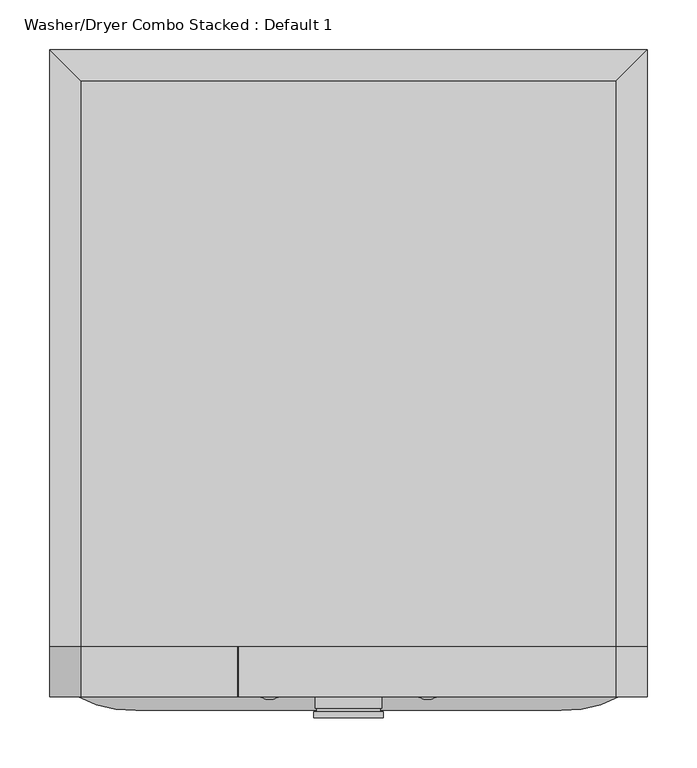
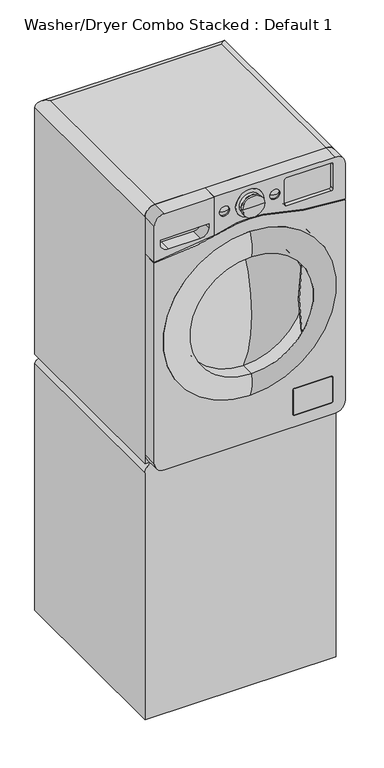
"""IFC4 building model written with IfcOpenShell, lengths in millimetres: proxy geometry, Washer/Dryer Combo Stacked : Default 1."""

from ifc_helpers import new_model, si_unit, point, frame, frame_2d, origin, place, context, project, spatial, polyline, circle_curve, ellipse_curve, trimmed, segment, composite_curve, outline, extrude, source, transform, mapped, element, save
from ifc_brep_helpers import plane_surface, cylinder_surface, revolved_surface, advanced_brep


def washer_dryer_combo_stacked_default_1_eb8726c9(model_context):
    return source(origin(), model_context, "Body", "SolidModel", [
        advanced_brep(
        [(-268.25, -599.2, 1700.0), (268.25, -599.2, 1700.0), (268.25, -31.75, 1700.0), (-268.25, -31.75, 1700.0), (300.0, 0.0, 850.0), (300.0, -599.2, 850.0), (-300.0, -599.2, 850.0), (-300.0, 0.0, 850.0), (-300.0, 0.0, 1668.25), (300.0, 0.0, 1668.25), (-300.0, -599.2, 1668.25), (300.0, -599.2, 1668.25)],
        [
            (0, 1),
            (1, 2),
            (2, 3),
            (3, 0),
            (4, 5),
            (5, 6),
            (6, 7),
            (7, 4),
            (7, 8),
            (8, 9),
            (9, 4),
            (6, 10),
            (10, 8),
            (5, 11),
            (11, 1, circle_curve(frame((268.25, -599.2, 1668.25), z_axis=(0.0, -1.0, 0.0), x_axis=(-1.0, 0.0, 0.0)), 31.75)),
            (0, 10, circle_curve(frame((-268.25, -599.2, 1668.25), z_axis=(0.0, -1.0, 0.0), x_axis=(1.0, 0.0, 0.0)), 31.75)),
            (9, 11),
            (9, 2, ellipse_curve(frame((268.25, -31.75, 1668.25), z_axis=(0.7071067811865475, -0.7071067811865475, 0.0), x_axis=(0.7071067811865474, 0.7071067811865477, 0.0)), 44.9012806, 31.75)),
            (8, 3, ellipse_curve(frame((-268.25, -31.75, 1668.25), z_axis=(0.7071067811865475, 0.7071067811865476, 0.0), x_axis=(-0.7071067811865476, 0.7071067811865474, 0.0)), 44.9012806, 31.75)),
        ],
        [
            plane_surface(frame((-300.0, 0.0, 1700.0), z_axis=(0.0, 0.0, 1.0), x_axis=(-1.0, 0.0, 0.0))),
            plane_surface(frame((-300.0, 0.0, 850.0), z_axis=(0.0, 0.0, -1.0), x_axis=(1.0, 0.0, 0.0))),
            plane_surface(frame((300.0, 0.0, 1700.0), z_axis=(0.0, 1.0, 0.0), x_axis=(0.0, 0.0, -1.0))),
            plane_surface(frame((-300.0, 0.0, 1700.0), z_axis=(-1.0, 0.0, 0.0), x_axis=(0.0, 0.0, -1.0))),
            plane_surface(frame((-300.0, -599.2, 1700.0), z_axis=(0.0, -1.0, 0.0), x_axis=(0.0, 0.0, -1.0))),
            plane_surface(frame((300.0, -599.2, 1700.0), z_axis=(1.0, 0.0, 0.0), x_axis=(0.0, 0.0, -1.0))),
            cylinder_surface(frame((268.25, -599.2, 1668.25), z_axis=(0.0, 1.0, 0.0), x_axis=(-1.0, 0.0, 0.0)), 31.75),
            cylinder_surface(frame((300.0, -31.75, 1668.25), z_axis=(-1.0, 0.0, 0.0), x_axis=(0.0, -1.0, 0.0)), 31.75),
            cylinder_surface(frame((-268.25, 0.0, 1668.25), z_axis=(0.0, -1.0, 0.0), x_axis=(1.0, 0.0, 0.0)), 31.75),
        ],
        [
            (0, [[1, 2, 3, 4]]),
            (1, [[5, 6, 7, 8]]),
            (2, [[-8, 9, 10, 11]]),
            (3, [[-7, 12, 13, -9]]),
            (4, [[-6, 14, 15, -1, 16, -12]]),
            (5, [[-5, -11, 17, -14]]),
            (6, [[18, -2, -15, -17]]),
            (7, [[-18, -10, 19, -3]]),
            (8, [[-19, -13, -16, -4]]),
        ],
    ),
        advanced_brep(
        [(268.25, -599.2, 1700.0), (300.0, -599.2, 1668.25), (300.0, -599.2, 1549.6273423), (41.197628, -599.2, 1590.1937849), (-41.197628, -599.2, 1590.1937849), (-110.0640352, -599.2, 1572.9758922), (-110.0640352, -599.2, 1700.0), (-63.5, -599.2, 1642.2071157), (-95.25, -599.2, 1642.2071157), (95.25, -599.2, 1642.2071157), (63.5, -599.2, 1642.2071157), (-44.45, -599.2, 1642.2071157), (44.45, -599.2, 1642.2071157), (-41.197628, -650.0, 1590.1937849), (41.197628, -650.0, 1590.1937849), (300.0, -650.0, 1549.6273423), (300.0, -650.0, 1668.25), (268.25, -650.0, 1700.0), (-110.0640352, -650.0, 1700.0), (-110.0640352, -650.0, 1572.9758922), (-63.5, -650.0, 1642.2071157), (-95.25, -650.0, 1642.2071157), (95.25, -650.0, 1642.2071157), (63.5, -650.0, 1642.2071157), (255.55, -650.0, 1592.05), (115.85, -650.0, 1592.05), (109.5, -650.0, 1598.4), (109.5, -650.0, 1677.775), (115.85, -650.0, 1684.125), (255.55, -650.0, 1684.125), (261.9, -650.0, 1677.775), (261.9, -650.0, 1598.4), (44.45, -650.0, 1642.2071157), (-44.45, -650.0, 1642.2071157), (255.55, -637.3, 1592.05), (261.9, -637.3, 1598.4), (261.9, -637.3, 1677.775), (255.55, -637.3, 1684.125), (115.85, -637.3, 1684.125), (109.5, -637.3, 1677.775), (109.5, -637.3, 1598.4), (115.85, -637.3, 1592.05)],
        [
            (0, 1, circle_curve(frame((268.25, -599.2, 1668.25), z_axis=(0.0, 1.0, 0.0), x_axis=(-1.0, 0.0, 0.0)), 31.75)),
            (1, 2),
            (2, 3, circle_curve(frame((335.100978, -599.2, 2619.3876052), z_axis=(0.0, 1.0, 0.0), x_axis=(-1.0, 0.0, 0.0)), 1070.3359747)),
            (3, 4, circle_curve(frame((0.0, -599.2, 1275.0), z_axis=(0.0, -1.0, 0.0), x_axis=(-1.0, 0.0, 0.0)), 317.8747656)),
            (4, 5, circle_curve(frame((-335.100978, -599.2, 2619.3876052), z_axis=(0.0, 1.0, 0.0), x_axis=(-1.0, 0.0, 0.0)), 1070.3359747)),
            (5, 6),
            (6, 0),
            (7, 8, circle_curve(frame((-79.375, -599.2, 1642.2071157), z_axis=(0.0, -1.0, 0.0), x_axis=(-1.0, 0.0, 0.0)), 15.875)),
            (8, 7, circle_curve(frame((-79.375, -599.2, 1642.2071157), z_axis=(0.0, -1.0, 0.0), x_axis=(-1.0, 0.0, 0.0)), 15.875)),
            (9, 10, circle_curve(frame((79.375, -599.2, 1642.2071157), z_axis=(0.0, -1.0, 0.0), x_axis=(-1.0, 0.0, 0.0)), 15.875)),
            (10, 9, circle_curve(frame((79.375, -599.2, 1642.2071157), z_axis=(0.0, -1.0, 0.0), x_axis=(-1.0, 0.0, 0.0)), 15.875)),
            (11, 12, circle_curve(frame((0.0, -599.2, 1642.2071157), z_axis=(0.0, -1.0, 0.0), x_axis=(-1.0, 0.0, 0.0)), 44.45)),
            (12, 11, circle_curve(frame((0.0, -599.2, 1642.2071157), z_axis=(0.0, -1.0, 0.0), x_axis=(-1.0, 0.0, 0.0)), 44.45)),
            (13, 14, circle_curve(frame((0.0, -650.0, 1275.0), z_axis=(0.0, 1.0, 0.0), x_axis=(-1.0, 0.0, 0.0)), 317.8747656)),
            (14, 15, circle_curve(frame((335.100978, -650.0, 2619.3876052), z_axis=(0.0, -1.0, 0.0), x_axis=(-1.0, 0.0, 0.0)), 1070.3359747)),
            (15, 16),
            (16, 17, circle_curve(frame((268.25, -650.0, 1668.25), z_axis=(0.0, -1.0, 0.0), x_axis=(-1.0, 0.0, 0.0)), 31.75)),
            (17, 18),
            (18, 19),
            (19, 13, circle_curve(frame((-335.100978, -650.0, 2619.3876052), z_axis=(0.0, -1.0, 0.0), x_axis=(-1.0, 0.0, 0.0)), 1070.3359747)),
            (20, 21, circle_curve(frame((-79.375, -650.0, 1642.2071157), z_axis=(0.0, 1.0, 0.0), x_axis=(-1.0, 0.0, 0.0)), 15.875)),
            (21, 20, circle_curve(frame((-79.375, -650.0, 1642.2071157), z_axis=(0.0, 1.0, 0.0), x_axis=(-1.0, 0.0, 0.0)), 15.875)),
            (22, 23, circle_curve(frame((79.375, -650.0, 1642.2071157), z_axis=(0.0, 1.0, 0.0), x_axis=(-1.0, 0.0, 0.0)), 15.875)),
            (23, 22, circle_curve(frame((79.375, -650.0, 1642.2071157), z_axis=(0.0, 1.0, 0.0), x_axis=(-1.0, 0.0, 0.0)), 15.875)),
            (24, 25),
            (25, 26, circle_curve(frame((115.85, -650.0, 1598.4), z_axis=(0.0, 1.0, 0.0), x_axis=(-1.0, 0.0, 0.0)), 6.35)),
            (26, 27),
            (27, 28, circle_curve(frame((115.85, -650.0, 1677.775), z_axis=(0.0, 1.0, 0.0), x_axis=(-1.0, 0.0, 0.0)), 6.35)),
            (28, 29),
            (29, 30, circle_curve(frame((255.55, -650.0, 1677.775), z_axis=(0.0, 1.0, 0.0), x_axis=(-1.0, 0.0, 0.0)), 6.35)),
            (30, 31),
            (31, 24, circle_curve(frame((255.55, -650.0, 1598.4), z_axis=(0.0, 1.0, 0.0), x_axis=(-1.0, 0.0, 0.0)), 6.35)),
            (32, 33, circle_curve(frame((0.0, -650.0, 1642.2071157), z_axis=(0.0, 1.0, 0.0), x_axis=(-1.0, 0.0, 0.0)), 44.45)),
            (33, 32, circle_curve(frame((0.0, -650.0, 1642.2071157), z_axis=(0.0, 1.0, 0.0), x_axis=(-1.0, 0.0, 0.0)), 44.45)),
            (17, 0),
            (6, 18),
            (16, 1),
            (15, 2),
            (14, 3),
            (13, 4),
            (19, 5),
            (34, 35, circle_curve(frame((255.55, -637.3, 1598.4), z_axis=(0.0, -1.0, 0.0), x_axis=(-1.0, 0.0, 0.0)), 6.35)),
            (35, 36),
            (36, 37, circle_curve(frame((255.55, -637.3, 1677.775), z_axis=(0.0, -1.0, 0.0), x_axis=(-1.0, 0.0, 0.0)), 6.35)),
            (37, 38),
            (38, 39, circle_curve(frame((115.85, -637.3, 1677.775), z_axis=(0.0, -1.0, 0.0), x_axis=(-1.0, 0.0, 0.0)), 6.35)),
            (39, 40),
            (40, 41, circle_curve(frame((115.85, -637.3, 1598.4), z_axis=(0.0, -1.0, 0.0), x_axis=(-1.0, 0.0, 0.0)), 6.35)),
            (41, 34),
            (41, 25),
            (24, 34),
            (40, 26),
            (39, 27),
            (38, 28),
            (37, 29),
            (36, 30),
            (35, 31),
            (7, 20),
            (21, 8),
            (9, 22),
            (23, 10),
            (11, 33),
            (32, 12),
        ],
        [
            plane_surface(frame((236.5, -599.2, 1668.25), z_axis=(0.0, 1.0, 0.0), x_axis=(0.0, 0.0, 1.0))),
            plane_surface(frame((236.5, -650.0, 1668.25), z_axis=(0.0, -1.0, 0.0), x_axis=(0.0, 0.0, -1.0))),
            plane_surface(frame((-268.25, -599.2, 1700.0), z_axis=(0.0, 0.0, 1.0), x_axis=(0.0, -1.0, 0.0))),
            cylinder_surface(frame((268.25, -650.0, 1668.25), z_axis=(0.0, 1.0, 0.0), x_axis=(-1.0, 0.0, 0.0)), 31.75),
            plane_surface(frame((300.0, -599.2, 1668.25), z_axis=(1.0, 0.0, 0.0), x_axis=(0.0, -1.0, 0.0))),
            cylinder_surface(frame((335.100978, -650.0, 2619.3876052), z_axis=(0.0, 1.0, 0.0), x_axis=(-1.0, 0.0, 0.0)), 1070.3359747),
            revolved_surface(polyline([(-317.8747656, -650.0, 1275.0), (-317.8747656, -599.2, 1275.0)]), (0.0, -650.0, 1275.0), (0.0, -1.0, 0.0)),
            cylinder_surface(frame((-335.100978, -650.0, 2619.3876052), z_axis=(0.0, 1.0, 0.0), x_axis=(-1.0, 0.0, 0.0)), 1070.3359747),
            plane_surface(frame((-110.0640352, -599.2, 1700.0), z_axis=(-1.0, 0.0, 0.0), x_axis=(0.0, -1.0, 0.0))),
            plane_surface(frame((115.85, -637.3, 1592.05), z_axis=(0.0, -1.0, 0.0), x_axis=(-1.0, 0.0, 0.0))),
            plane_surface(frame((255.55, -637.3, 1592.05), z_axis=(0.0, 0.0, 1.0), x_axis=(0.0, -1.0, 0.0))),
            revolved_surface(polyline([(109.5, -637.3, 1598.4), (109.5, -650.0, 1598.4)]), (115.85, -650.0, 1598.4), (0.0, 1.0, 0.0)),
            plane_surface(frame((109.5, -637.3, 1598.4), z_axis=(1.0, 0.0, 0.0), x_axis=(0.0, -1.0, 0.0))),
            revolved_surface(polyline([(109.5, -637.3, 1677.775), (109.5, -650.0, 1677.775)]), (115.85, -650.0, 1677.775), (0.0, 1.0, 0.0)),
            plane_surface(frame((115.85, -637.3, 1684.125), z_axis=(0.0, 0.0, -1.0), x_axis=(0.0, -1.0, 0.0))),
            revolved_surface(polyline([(249.20000000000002, -637.3, 1677.775), (249.20000000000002, -650.0, 1677.775)]), (255.55, -650.0, 1677.775), (0.0, 1.0, 0.0)),
            plane_surface(frame((261.9, -637.3, 1677.775), z_axis=(-1.0, 0.0, 0.0), x_axis=(0.0, -1.0, 0.0))),
            revolved_surface(polyline([(249.20000000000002, -637.3, 1598.4), (249.20000000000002, -650.0, 1598.4)]), (255.55, -650.0, 1598.4), (0.0, 1.0, 0.0)),
            revolved_surface(polyline([(-95.25, -650.0, 1642.2071157), (-95.25, -599.2, 1642.2071157)]), (-79.375, -650.0, 1642.2071157), (0.0, -1.0, 0.0)),
            revolved_surface(polyline([(63.5, -650.0, 1642.2071157), (63.5, -599.2, 1642.2071157)]), (79.375, -650.0, 1642.2071157), (0.0, -1.0, 0.0)),
            revolved_surface(polyline([(-44.45, -599.2, 1642.2071157), (-44.45, -650.0, 1642.2071157)]), (0.0, -650.0, 1642.2071157), (0.0, 1.0, 0.0)),
        ],
        [
            (0, [[1, 2, 3, 4, 5, 6, 7], [8, 9], [10, 11], [12, 13]]),
            (1, [[14, 15, 16, 17, 18, 19, 20], [21, 22], [23, 24], [25, 26, 27, 28, 29, 30, 31, 32], [33, 34]]),
            (2, [[35, -7, 36, -18]]),
            (3, [[-1, -35, -17, 37]]),
            (4, [[-2, -37, -16, 38]]),
            (5, [[-3, -38, -15, 39]]),
            (6, [[-4, -39, -14, 40]]),
            (7, [[-40, -20, 41, -5]]),
            (8, [[-6, -41, -19, -36]]),
            (9, [[42, 43, 44, 45, 46, 47, 48, 49]]),
            (10, [[-49, 50, -25, 51]]),
            (11, [[-48, 52, -26, -50]]),
            (12, [[-47, 53, -27, -52]]),
            (13, [[-46, 54, -28, -53]]),
            (14, [[-45, 55, -29, -54]]),
            (15, [[-44, 56, -30, -55]]),
            (16, [[-43, 57, -31, -56]]),
            (17, [[-42, -51, -32, -57]]),
            (18, [[-8, 58, -22, 59]]),
            (18, [[-9, -59, -21, -58]]),
            (19, [[-10, 60, -24, 61]]),
            (19, [[-11, -61, -23, -60]]),
            (20, [[62, -33, 63, -12]]),
            (20, [[-62, -13, -63, -34]]),
        ],
    ),
        advanced_brep(
        [(-300.0, -599.2, 1549.6273423), (-300.0, -599.2, 1668.25), (-268.25, -599.2, 1700.0), (-111.6515352, -599.2, 1700.0), (-111.6515352, -599.2, 1572.6357505), (-268.25, -650.0, 1700.0), (-300.0, -650.0, 1668.25), (-300.0, -650.0, 1549.6273423), (-111.6515352, -650.0, 1572.6357505), (-111.6515352, -650.0, 1700.0), (-128.55, -650.0, 1616.8071157), (-128.55, -650.0, 1604.1071157), (-153.95, -650.0, 1578.7071157), (-255.55, -650.0, 1578.7071157), (-280.95, -650.0, 1604.1071157), (-280.95, -650.0, 1616.8071157), (-128.55, -611.9, 1616.8071157), (-280.95, -611.9, 1616.8071157), (-280.95, -611.9, 1604.1071157), (-255.55, -611.9, 1578.7071157), (-153.95, -611.9, 1578.7071157), (-128.55, -611.9, 1604.1071157)],
        [
            (0, 1),
            (1, 2, circle_curve(frame((-268.25, -599.2, 1668.25), z_axis=(0.0, 1.0, 0.0), x_axis=(-1.0, 0.0, 0.0)), 31.75)),
            (2, 3),
            (3, 4),
            (4, 0, circle_curve(frame((-335.100978, -599.2, 2619.3876052), z_axis=(0.0, 1.0, 0.0), x_axis=(-1.0, 0.0, 0.0)), 1070.3359747)),
            (5, 6, circle_curve(frame((-268.25, -650.0, 1668.25), z_axis=(0.0, -1.0, 0.0), x_axis=(-1.0, 0.0, 0.0)), 31.75)),
            (6, 7),
            (7, 8, circle_curve(frame((-335.100978, -650.0, 2619.3876052), z_axis=(0.0, -1.0, 0.0), x_axis=(-1.0, 0.0, 0.0)), 1070.3359747)),
            (8, 9),
            (9, 5),
            (10, 11),
            (11, 12, circle_curve(frame((-153.95, -650.0, 1604.1071157), z_axis=(0.0, 1.0, 0.0), x_axis=(-1.0, 0.0, 0.0)), 25.4)),
            (12, 13),
            (13, 14, circle_curve(frame((-255.55, -650.0, 1604.1071157), z_axis=(0.0, 1.0, 0.0), x_axis=(-1.0, 0.0, 0.0)), 25.4)),
            (14, 15),
            (15, 10),
            (2, 5),
            (9, 3),
            (7, 0),
            (4, 8),
            (6, 1),
            (16, 17),
            (17, 18),
            (18, 19, circle_curve(frame((-255.55, -611.9, 1604.1071157), z_axis=(0.0, -1.0, 0.0), x_axis=(-1.0, 0.0, 0.0)), 25.4)),
            (19, 20),
            (20, 21, circle_curve(frame((-153.95, -611.9, 1604.1071157), z_axis=(0.0, -1.0, 0.0), x_axis=(-1.0, 0.0, 0.0)), 25.4)),
            (21, 16),
            (21, 11),
            (10, 16),
            (20, 12),
            (19, 13),
            (18, 14),
            (17, 15),
        ],
        [
            plane_surface(frame((236.5, -599.2, 1668.25), z_axis=(0.0, 1.0, 0.0), x_axis=(0.0, 0.0, 1.0))),
            plane_surface(frame((236.5, -650.0, 1668.25), z_axis=(0.0, -1.0, 0.0), x_axis=(0.0, 0.0, -1.0))),
            plane_surface(frame((-268.25, -599.2, 1700.0), z_axis=(0.0, 0.0, 1.0), x_axis=(0.0, -1.0, 0.0))),
            cylinder_surface(frame((-335.100978, -650.0, 2619.3876052), z_axis=(0.0, 1.0, 0.0), x_axis=(-1.0, 0.0, 0.0)), 1070.3359747),
            plane_surface(frame((-300.0, -599.2, 1549.6273423), z_axis=(-1.0, 0.0, 0.0), x_axis=(0.0, -1.0, 0.0))),
            cylinder_surface(frame((-268.25, -650.0, 1668.25), z_axis=(0.0, 1.0, 0.0), x_axis=(-1.0, 0.0, 0.0)), 31.75),
            plane_surface(frame((-128.55, -611.9, 1616.8071157), z_axis=(0.0, -1.0, 0.0), x_axis=(0.0, 0.0, -1.0))),
            plane_surface(frame((-128.55, -611.9, 1616.8071157), z_axis=(-1.0, 0.0, 0.0), x_axis=(0.0, -1.0, 0.0))),
            revolved_surface(polyline([(-179.35, -611.9, 1604.1071157), (-179.35, -650.0, 1604.1071157)]), (-153.95, -650.0, 1604.1071157), (0.0, 1.0, 0.0)),
            plane_surface(frame((-153.95, -611.9, 1578.7071157), z_axis=(0.0, 0.0, 1.0), x_axis=(0.0, -1.0, 0.0))),
            revolved_surface(polyline([(-280.95, -611.9, 1604.1071157), (-280.95, -650.0, 1604.1071157)]), (-255.55, -650.0, 1604.1071157), (0.0, 1.0, 0.0)),
            plane_surface(frame((-280.95, -611.9, 1604.1071157), z_axis=(1.0, 0.0, 0.0), x_axis=(0.0, -1.0, 0.0))),
            plane_surface(frame((-280.95, -611.9, 1616.8071157), z_axis=(0.0, 0.0, -1.0), x_axis=(0.0, -1.0, 0.0))),
            plane_surface(frame((-111.6515352, -599.2, 1571.6531644), z_axis=(1.0, 0.0, 0.0), x_axis=(0.0, -1.0, 0.0))),
        ],
        [
            (0, [[1, 2, 3, 4, 5]]),
            (1, [[6, 7, 8, 9, 10], [11, 12, 13, 14, 15, 16]]),
            (2, [[17, -10, 18, -3]]),
            (3, [[19, -5, 20, -8]]),
            (4, [[-1, -19, -7, 21]]),
            (5, [[-2, -21, -6, -17]]),
            (6, [[22, 23, 24, 25, 26, 27]]),
            (7, [[-27, 28, -11, 29]]),
            (8, [[-26, 30, -12, -28]]),
            (9, [[-25, 31, -13, -30]]),
            (10, [[-24, 32, -14, -31]]),
            (11, [[-23, 33, -15, -32]]),
            (12, [[-22, -29, -16, -33]]),
            (13, [[-4, -18, -9, -20]]),
        ],
    ),
        advanced_brep(
        [(-300.0, -599.2, 1546.4508315), (-40.4210503, -599.2, 1587.1138337), (40.4210503, -599.2, 1587.1138337), (300.0, -599.2, 1546.4508315), (300.0, -599.2, 881.75), (268.25, -599.2, 850.0), (-268.25, -599.2, 850.0), (-300.0, -599.2, 881.75), (254.0, -599.2, 1275.0), (-254.0, -599.2, 1275.0), (-300.0, -650.0, 1546.4508315), (-300.0, -650.0, 881.75), (-268.25, -650.0, 850.0), (268.25, -650.0, 850.0), (300.0, -650.0, 881.75), (300.0, -650.0, 1546.4508315), (40.4210503, -650.0, 1587.1138337), (-40.4210503, -650.0, 1587.1138337), (254.0, -650.0, 1275.0), (-254.0, -650.0, 1275.0), (261.9, -650.0, 970.65), (261.9, -650.0, 894.45), (255.55, -650.0, 888.1), (141.25, -650.0, 888.1), (134.9, -650.0, 894.45), (134.9, -650.0, 970.65), (141.25, -650.0, 977.0), (255.55, -650.0, 977.0), (260.3125, -650.0, 894.45), (260.3125, -650.0, 970.65), (255.55, -650.0, 975.4125), (141.25, -650.0, 975.4125), (136.4875, -650.0, 970.65), (136.4875, -650.0, 894.45), (141.25, -650.0, 889.6875), (255.55, -650.0, 889.6875), (260.3125, -636.50625, 894.45), (260.3125, -636.50625, 970.65), (261.9, -636.50625, 970.65), (261.9, -636.50625, 894.45), (141.25, -636.50625, 889.6875), (255.55, -636.50625, 889.6875), (255.55, -636.50625, 888.1), (141.25, -636.50625, 888.1), (136.4875, -636.50625, 970.65), (136.4875, -636.50625, 894.45), (134.9, -636.50625, 894.45), (134.9, -636.50625, 970.65), (255.55, -636.50625, 975.4125), (141.25, -636.50625, 975.4125), (141.25, -636.50625, 977.0), (255.55, -636.50625, 977.0)],
        [
            (0, 1, circle_curve(frame((-335.100978, -599.2, 2619.3876052), z_axis=(0.0, -1.0, 0.0), x_axis=(-1.0, 0.0, 0.0)), 1073.510782)),
            (1, 2, circle_curve(frame((0.0, -599.2, 1275.0), z_axis=(0.0, 1.0, 0.0), x_axis=(-1.0, 0.0, 0.0)), 314.7203624)),
            (2, 3, circle_curve(frame((335.100978, -599.2, 2619.3876052), z_axis=(0.0, -1.0, 0.0), x_axis=(-1.0, 0.0, 0.0)), 1073.510782)),
            (3, 4),
            (4, 5, circle_curve(frame((268.25, -599.2, 881.75), z_axis=(0.0, 1.0, 0.0), x_axis=(-1.0, 0.0, 0.0)), 31.75)),
            (5, 6),
            (6, 7, circle_curve(frame((-268.25, -599.2, 881.75), z_axis=(0.0, 1.0, 0.0), x_axis=(-1.0, 0.0, 0.0)), 31.75)),
            (7, 0),
            (8, 9, circle_curve(frame((0.0, -599.2, 1275.0), z_axis=(0.0, -1.0, 0.0), x_axis=(-1.0, 0.0, 0.0)), 254.0)),
            (9, 8, circle_curve(frame((0.0, -599.2, 1275.0), z_axis=(0.0, -1.0, 0.0), x_axis=(-1.0, 0.0, 0.0)), 254.0)),
            (10, 11),
            (11, 12, circle_curve(frame((-268.25, -650.0, 881.75), z_axis=(0.0, -1.0, 0.0), x_axis=(-1.0, 0.0, 0.0)), 31.75)),
            (12, 13),
            (13, 14, circle_curve(frame((268.25, -650.0, 881.75), z_axis=(0.0, -1.0, 0.0), x_axis=(-1.0, 0.0, 0.0)), 31.75)),
            (14, 15),
            (15, 16, circle_curve(frame((335.100978, -650.0, 2619.3876052), z_axis=(0.0, 1.0, 0.0), x_axis=(-1.0, 0.0, 0.0)), 1073.510782)),
            (16, 17, circle_curve(frame((0.0, -650.0, 1275.0), z_axis=(0.0, -1.0, 0.0), x_axis=(-1.0, 0.0, 0.0)), 314.7203624)),
            (17, 10, circle_curve(frame((-335.100978, -650.0, 2619.3876052), z_axis=(0.0, 1.0, 0.0), x_axis=(-1.0, 0.0, 0.0)), 1073.510782)),
            (18, 19, circle_curve(frame((0.0, -650.0, 1275.0), z_axis=(0.0, 1.0, 0.0), x_axis=(-1.0, 0.0, 0.0)), 254.0)),
            (19, 18, circle_curve(frame((0.0, -650.0, 1275.0), z_axis=(0.0, 1.0, 0.0), x_axis=(-1.0, 0.0, 0.0)), 254.0)),
            (20, 21),
            (21, 22, circle_curve(frame((255.55, -650.0, 894.45), z_axis=(0.0, 1.0, 0.0), x_axis=(1.0, 0.0, 0.0)), 6.35)),
            (22, 23),
            (23, 24, circle_curve(frame((141.25, -650.0, 894.45), z_axis=(0.0, 1.0, 0.0), x_axis=(0.0, 0.0, -1.0)), 6.35)),
            (24, 25),
            (25, 26, circle_curve(frame((141.25, -650.0, 970.65), z_axis=(0.0, 1.0, 0.0), x_axis=(-1.0, 0.0, 0.0)), 6.35)),
            (26, 27),
            (27, 20, circle_curve(frame((255.55, -650.0, 970.65), z_axis=(0.0, 1.0, 0.0), x_axis=(0.0, 0.0, 1.0)), 6.35)),
            (28, 29),
            (29, 30, circle_curve(frame((255.55, -650.0, 970.65), z_axis=(0.0, -1.0, 0.0), x_axis=(0.0, 0.0, 1.0)), 4.7625)),
            (30, 31),
            (31, 32, circle_curve(frame((141.25, -650.0, 970.65), z_axis=(0.0, -1.0, 0.0), x_axis=(-1.0, 0.0, 0.0)), 4.7625)),
            (32, 33),
            (33, 34, circle_curve(frame((141.25, -650.0, 894.45), z_axis=(0.0, -1.0, 0.0), x_axis=(0.0, 0.0, -1.0)), 4.7625)),
            (34, 35),
            (35, 28, circle_curve(frame((255.55, -650.0, 894.45), z_axis=(0.0, -1.0, 0.0), x_axis=(1.0, 0.0, 0.0)), 4.7625)),
            (3, 15),
            (14, 4),
            (5, 13),
            (12, 6),
            (7, 11),
            (10, 0),
            (17, 1),
            (16, 2),
            (8, 18),
            (19, 9),
            (28, 36),
            (36, 37),
            (37, 29),
            (38, 39),
            (39, 21),
            (20, 38),
            (34, 40),
            (40, 41),
            (41, 35),
            (42, 43),
            (43, 23),
            (22, 42),
            (32, 44),
            (44, 45),
            (45, 33),
            (46, 47),
            (47, 25),
            (24, 46),
            (30, 48),
            (48, 49),
            (49, 31),
            (50, 51),
            (51, 27),
            (26, 50),
            (37, 48, circle_curve(frame((255.55, -636.50625, 970.65), z_axis=(0.0, -1.0, 0.0), x_axis=(0.0, 0.0, 1.0)), 4.7625)),
            (51, 38, circle_curve(frame((255.55, -636.50625, 970.65), z_axis=(0.0, 1.0, 0.0), x_axis=(0.0, 0.0, 1.0)), 6.35)),
            (41, 36, circle_curve(frame((255.55, -636.50625, 894.45), z_axis=(0.0, -1.0, 0.0), x_axis=(1.0, 0.0, 0.0)), 4.7625)),
            (39, 42, circle_curve(frame((255.55, -636.50625, 894.45), z_axis=(0.0, 1.0, 0.0), x_axis=(1.0, 0.0, 0.0)), 6.35)),
            (45, 40, circle_curve(frame((141.25, -636.50625, 894.45), z_axis=(0.0, -1.0, 0.0), x_axis=(0.0, 0.0, -1.0)), 4.7625)),
            (43, 46, circle_curve(frame((141.25, -636.50625, 894.45), z_axis=(0.0, 1.0, 0.0), x_axis=(0.0, 0.0, -1.0)), 6.35)),
            (50, 47, circle_curve(frame((141.25, -636.50625, 970.65), z_axis=(0.0, -1.0, 0.0), x_axis=(-1.0, 0.0, 0.0)), 6.35)),
            (44, 49, circle_curve(frame((141.25, -636.50625, 970.65), z_axis=(0.0, 1.0, 0.0), x_axis=(-1.0, 0.0, 0.0)), 4.7625)),
        ],
        [
            plane_surface(frame((236.5, -599.2, 1668.25), z_axis=(0.0, 1.0, 0.0), x_axis=(0.0, 0.0, 1.0))),
            plane_surface(frame((236.5, -650.0, 1668.25), z_axis=(0.0, -1.0, 0.0), x_axis=(0.0, 0.0, -1.0))),
            plane_surface(frame((300.0, -599.2, 1546.4508315), z_axis=(1.0, 0.0, 0.0), x_axis=(0.0, -1.0, 0.0))),
            plane_surface(frame((268.25, -599.2, 850.0), z_axis=(0.0, 0.0, -1.0), x_axis=(0.0, -1.0, 0.0))),
            plane_surface(frame((-300.0, -599.2, 881.75), z_axis=(-1.0, 0.0, 0.0), x_axis=(0.0, -1.0, 0.0))),
            revolved_surface(polyline([(-1408.61176, -650.0, 2619.3876052), (-1408.61176, -599.2, 2619.3876052)]), (-335.100978, -650.0, 2619.3876052), (0.0, -1.0, 0.0)),
            cylinder_surface(frame((0.0, -650.0, 1275.0), z_axis=(0.0, 1.0, 0.0), x_axis=(-1.0, 0.0, 0.0)), 314.7203624),
            revolved_surface(polyline([(-738.4098040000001, -650.0, 2619.3876052), (-738.4098040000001, -599.2, 2619.3876052)]), (335.100978, -650.0, 2619.3876052), (0.0, -1.0, 0.0)),
            cylinder_surface(frame((268.25, -650.0, 881.75), z_axis=(0.0, 1.0, 0.0), x_axis=(-1.0, 0.0, 0.0)), 31.75),
            cylinder_surface(frame((-268.25, -650.0, 881.75), z_axis=(0.0, 1.0, 0.0), x_axis=(-1.0, 0.0, 0.0)), 31.75),
            revolved_surface(polyline([(-254.0, -650.0, 1275.0), (-254.0, -599.2, 1275.0)]), (0.0, -650.0, 1275.0), (0.0, -1.0, 0.0)),
            plane_surface(frame((260.3125, -636.50625, 970.65), z_axis=(1.0, 0.0, 0.0), x_axis=(0.0, 0.0, -1.0))),
            plane_surface(frame((261.9, -650.0, 970.65), z_axis=(-1.0, 0.0, 0.0), x_axis=(0.0, 0.0, -1.0))),
            plane_surface(frame((255.55, -636.50625, 889.6875), z_axis=(0.0, 0.0, -1.0), x_axis=(-1.0, 0.0, 0.0))),
            plane_surface(frame((255.55, -650.0, 888.1), z_axis=(0.0, 0.0, 1.0), x_axis=(-1.0, 0.0, 0.0))),
            plane_surface(frame((136.4875, -636.50625, 894.45), z_axis=(-1.0, 0.0, 0.0), x_axis=(0.0, 0.0, 1.0))),
            plane_surface(frame((134.9, -650.0, 894.45), z_axis=(1.0, 0.0, 0.0), x_axis=(0.0, 0.0, 1.0))),
            plane_surface(frame((141.25, -636.50625, 975.4125), z_axis=(0.0, 0.0, 1.0), x_axis=(1.0, 0.0, 0.0))),
            plane_surface(frame((141.25, -650.0, 977.0), z_axis=(0.0, 0.0, -1.0), x_axis=(1.0, 0.0, 0.0))),
            cylinder_surface(frame((255.55, -650.0, 970.65), z_axis=(0.0, 1.0, 0.0), x_axis=(0.0, 0.0, 1.0)), 4.7625),
            revolved_surface(polyline([(255.55, -636.50625, 977.0), (255.55, -650.0, 977.0)]), (255.55, -650.0, 970.65), (0.0, 1.0, 0.0)),
            cylinder_surface(frame((255.55, -650.0, 894.45), z_axis=(0.0, 1.0, 0.0), x_axis=(1.0, 0.0, 0.0)), 4.7625),
            revolved_surface(polyline([(261.90000000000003, -636.50625, 894.45), (261.90000000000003, -650.0, 894.45)]), (255.55, -650.0, 894.45), (0.0, 1.0, 0.0)),
            cylinder_surface(frame((141.25, -650.0, 894.45), z_axis=(0.0, 1.0, 0.0), x_axis=(0.0, 0.0, -1.0)), 4.7625),
            revolved_surface(polyline([(141.25, -636.50625, 888.1), (141.25, -650.0, 888.1)]), (141.25, -650.0, 894.45), (0.0, 1.0, 0.0)),
            plane_surface(frame((141.25, -636.50625, 970.65), z_axis=(0.0, -1.0, 0.0), x_axis=(-1.0, 0.0, 0.0))),
            cylinder_surface(frame((141.25, -650.0, 970.65), z_axis=(0.0, 1.0, 0.0), x_axis=(-1.0, 0.0, 0.0)), 4.7625),
            revolved_surface(polyline([(134.9, -636.50625, 970.65), (134.9, -650.0, 970.65)]), (141.25, -650.0, 970.65), (0.0, 1.0, 0.0)),
        ],
        [
            (0, [[1, 2, 3, 4, 5, 6, 7, 8], [9, 10]]),
            (1, [[11, 12, 13, 14, 15, 16, 17, 18], [19, 20], [21, 22, 23, 24, 25, 26, 27, 28]]),
            (1, [[29, 30, 31, 32, 33, 34, 35, 36]]),
            (2, [[-4, 37, -15, 38]]),
            (3, [[-6, 39, -13, 40]]),
            (4, [[-8, 41, -11, 42]]),
            (5, [[-1, -42, -18, 43]]),
            (6, [[-2, -43, -17, 44]]),
            (7, [[-3, -44, -16, -37]]),
            (8, [[-5, -38, -14, -39]]),
            (9, [[-7, -40, -12, -41]]),
            (10, [[-9, 45, -20, 46]]),
            (10, [[-10, -46, -19, -45]]),
            (11, [[47, 48, 49, -29]]),
            (12, [[50, 51, -21, 52]]),
            (13, [[53, 54, 55, -35]]),
            (14, [[56, 57, -23, 58]]),
            (15, [[59, 60, 61, -33]]),
            (16, [[62, 63, -25, 64]]),
            (17, [[65, 66, 67, -31]]),
            (18, [[68, 69, -27, 70]]),
            (19, [[-49, 71, -65, -30]]),
            (20, [[-52, -28, -69, 72]]),
            (21, [[-47, -36, -55, 73]]),
            (22, [[-51, 74, -58, -22]]),
            (23, [[-53, -34, -61, 75]]),
            (24, [[-57, 76, -64, -24]]),
            (25, [[-50, -72, -68, 77, -62, -76, -56, -74], [-48, -73, -54, -75, -60, 78, -66, -71]]),
            (26, [[-59, -32, -67, -78]]),
            (27, [[-63, -77, -70, -26]]),
        ],
    ),
        advanced_brep(
        [(0.0, -599.2, 1080.1111611), (0.0, -599.2, 1469.8888389), (0.0, -599.2, 1275.0), (0.0, -614.2356465, 1080.1111611), (0.0, -614.2356465, 1469.8888389), (0.0, -660.0440862, 1275.0)],
        [
            (0, 1, circle_curve(frame((0.0, -599.2, 1275.0), z_axis=(0.0, 1.0, 0.0), x_axis=(0.0, 0.0, 1.0)), 194.8888389)),
            (1, 2),
            (2, 0),
            (1, 0, circle_curve(frame((0.0, -599.2, 1275.0), z_axis=(0.0, 1.0, 0.0), x_axis=(0.0, 0.0, 1.0)), 194.8888389)),
            (3, 4, circle_curve(frame((0.0, -614.2356465, 1275.0), z_axis=(0.0, 1.0, 0.0), x_axis=(0.0, 0.0, 1.0)), 194.8888389)),
            (4, 1),
            (0, 3),
            (4, 3, circle_curve(frame((0.0, -614.2356465, 1275.0), z_axis=(0.0, 1.0, 0.0), x_axis=(0.0, 0.0, 1.0)), 194.8888389)),
            (5, 4, circle_curve(frame((0.0, -222.5693225, 1275.0), z_axis=(-1.0, 0.0, 0.0), x_axis=(0.0, 1.0, 0.0)), 437.4747638)),
            (3, 5, circle_curve(frame((0.0, -222.5693225, 1275.0), z_axis=(-1.0, 0.0, 0.0), x_axis=(0.0, 1.0, 0.0)), 437.4747638)),
        ],
        [
            plane_surface(frame((0.0, -599.2, 1275.0), z_axis=(0.0, 1.0, 0.0), x_axis=(0.0, 0.0, 1.0))),
            cylinder_surface(frame((0.0, 2097.4086068, 1275.0), z_axis=(0.0, -1.0, 0.0), x_axis=(0.0, 0.0, 1.0)), 194.8888389),
            revolved_surface(trimmed(ellipse_curve(frame((0.0, -222.5693225, 1275.0), z_axis=(1.0, 0.0, 0.0), x_axis=(0.0, 1.0, 0.0)), 437.4747638, 437.4747638), [point((0.0, -614.2356465, 1469.8888389))], [point((0.0, -660.0440862, 1275.0))], True, "CARTESIAN"), (0.0, 2097.4086068, 1275.0), (0.0, -1.0, 0.0)),
        ],
        [
            (0, [[1, 2, 3]]),
            (0, [[4, -3, -2]]),
            (1, [[5, 6, -1, 7]]),
            (1, [[8, -7, -4, -6]]),
            (2, [[9, -5, 10]]),
            (2, [[-10, -8, -9]]),
        ],
    ),
        advanced_brep(
        [(0.0, -660.1804538, 1080.1111611), (0.0, -660.1804538, 1469.8888389), (0.0, -650.0, 1548.05), (0.0, -650.0, 1001.95), (0.0, -599.2, 1080.1111611), (0.0, -599.2, 1469.8888389), (0.0, -599.2, 1001.95), (0.0, -599.2, 1548.05)],
        [
            (0, 1, circle_curve(frame((0.0, -660.1804538, 1275.0), z_axis=(0.0, 1.0, 0.0), x_axis=(0.0, 0.0, 1.0)), 194.8888389)),
            (1, 2, circle_curve(frame((0.0, -553.6052478, 1495.7510496), z_axis=(-1.0, 0.0, 0.0), x_axis=(0.0, 1.0, 0.0)), 109.6682655)),
            (2, 3, circle_curve(frame((0.0, -650.0, 1275.0), z_axis=(0.0, -1.0, 0.0), x_axis=(0.0, 0.0, 1.0)), 273.05)),
            (3, 0, circle_curve(frame((0.0, -553.6052478, 1054.2489504), z_axis=(-1.0, 0.0, 0.0), x_axis=(0.0, 1.0, 0.0)), 109.6682655)),
            (1, 0, circle_curve(frame((0.0, -660.1804538, 1275.0), z_axis=(0.0, 1.0, 0.0), x_axis=(0.0, 0.0, 1.0)), 194.8888389)),
            (3, 2, circle_curve(frame((0.0, -650.0, 1275.0), z_axis=(0.0, -1.0, 0.0), x_axis=(0.0, 0.0, 1.0)), 273.05)),
            (4, 5, circle_curve(frame((0.0, -599.2, 1275.0), z_axis=(0.0, 1.0, 0.0), x_axis=(0.0, 0.0, 1.0)), 194.8888389)),
            (5, 1),
            (0, 4),
            (5, 4, circle_curve(frame((0.0, -599.2, 1275.0), z_axis=(0.0, 1.0, 0.0), x_axis=(0.0, 0.0, 1.0)), 194.8888389)),
            (6, 7, circle_curve(frame((0.0, -599.2, 1275.0), z_axis=(0.0, 1.0, 0.0), x_axis=(0.0, 0.0, 1.0)), 273.05)),
            (7, 5),
            (4, 6),
            (7, 6, circle_curve(frame((0.0, -599.2, 1275.0), z_axis=(0.0, 1.0, 0.0), x_axis=(0.0, 0.0, 1.0)), 273.05)),
            (2, 7),
            (6, 3),
        ],
        [
            revolved_surface(trimmed(ellipse_curve(frame((0.0, -553.6052478, 1495.7510496), z_axis=(1.0, 0.0, 0.0), x_axis=(0.0, 1.0, 0.0)), 109.6682655, 109.6682655), [point((0.0, -650.0, 1548.05))], [point((0.0, -660.1804538, 1469.8888389))], True, "CARTESIAN"), (0.0, 2097.4086068, 1275.0), (0.0, -1.0, 0.0)),
            revolved_surface(polyline([(0.0, -660.1804538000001, 1469.8888388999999), (0.0, -599.2000000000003, 1469.8888388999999)]), (0.0, 2097.4086068, 1275.0), (0.0, -1.0, 0.0)),
            plane_surface(frame((0.0, -599.2, 1275.0), z_axis=(0.0, 1.0, 0.0), x_axis=(0.0, 0.0, 1.0))),
            cylinder_surface(frame((0.0, 2097.4086068, 1275.0), z_axis=(0.0, -1.0, 0.0), x_axis=(0.0, 0.0, 1.0)), 273.05),
        ],
        [
            (0, [[1, 2, 3, 4]]),
            (0, [[5, -4, 6, -2]]),
            (1, [[7, 8, -1, 9]]),
            (1, [[10, -9, -5, -8]]),
            (2, [[11, 12, -7, 13]]),
            (2, [[14, -13, -10, -12]]),
            (3, [[-3, 15, -11, 16]]),
            (3, [[-6, -16, -14, -15]]),
        ],
    ),
        extrude(outline(composite_curve([segment(trimmed(circle_curve(frame_2d((1642.2071157, 0.0)), 44.45), [point((1642.2071157, 44.45))], [point((1642.2071157, -44.45))], False, "CARTESIAN"), True, "CONTINUOUS"), segment(trimmed(circle_curve(frame_2d((1642.2071157, 0.0)), 44.45), [point((1642.2071157, -44.45))], [point((1642.2071157, 44.45))], False, "CARTESIAN"), True, "CONTINUOUS")], self_intersect=False)), frame((0.0, -650.0, 0.0), z_axis=(0.0, 1.0, 0.0), x_axis=(0.0, 0.0, 1.0)), (0.0, 0.0, 1.0), 50.8),
        extrude(outline(composite_curve([segment(trimmed(circle_curve(frame_2d((1275.0, 0.0)), 194.8888389), [point((1161.5007643, 158.4284792))], [point((1388.4992357, 158.4284792))], False, "CARTESIAN"), True, "CONTINUOUS"), segment(trimmed(circle_curve(frame_2d((1275.0, 881.0247467)), 731.4557009), [point((1388.4992357, 158.4284792))], [point((1161.5007643, 158.4284792))], False, "CARTESIAN"), True, "CONTINUOUS")], self_intersect=False)), frame((0.0, -660.1804538, 0.0), z_axis=(0.0, 1.0, 0.0), x_axis=(0.0, 0.0, 1.0)), (0.0, 0.0, 1.0), 3.5920829),
        advanced_brep(
        [(79.375, -652.3559326, 1642.2071157), (63.5, -646.0059326, 1642.2071157), (95.25, -646.0059326, 1642.2071157), (79.375, -646.0059326, 1642.2071157)],
        [
            (0, 1, circle_curve(frame((81.0201143, -625.2243968, 1642.2071157), z_axis=(0.0, 0.0, -1.0), x_axis=(-1.0, 0.0, 0.0)), 27.1813656)),
            (1, 2, circle_curve(frame((79.375, -646.0059326, 1642.2071157), z_axis=(0.0, -1.0, 0.0), x_axis=(-1.0, 0.0, 0.0)), 15.875)),
            (2, 0, circle_curve(frame((77.7298857, -625.2243968, 1642.2071157), z_axis=(0.0, 0.0, -1.0), x_axis=(1.0, 0.0, 0.0)), 27.1813656)),
            (2, 1, circle_curve(frame((79.375, -646.0059326, 1642.2071157), z_axis=(0.0, -1.0, 0.0), x_axis=(-1.0, 0.0, 0.0)), 15.875)),
            (1, 3),
            (3, 2),
        ],
        [
            revolved_surface(trimmed(ellipse_curve(frame((81.0201143, -625.2243968, 1642.2071157), z_axis=(0.0, 0.0, 1.0), x_axis=(-1.0, 0.0, 0.0)), 27.1813656, 27.1813656), [point((63.5, -646.0059326, 1642.2071157))], [point((79.375, -652.3559326, 1642.2071157))], True, "CARTESIAN"), (79.375, -704.7151131, 1642.2071157), (0.0, -1.0, 0.0)),
            plane_surface(frame((79.375, -646.0059326, 1642.2071157), z_axis=(0.0, 1.0, 0.0), x_axis=(-1.0, 0.0, 0.0))),
        ],
        [
            (0, [[1, 2, 3]]),
            (0, [[-3, 4, -1]]),
            (1, [[-2, 5, 6]]),
            (1, [[-4, -6, -5]]),
        ],
    ),
        advanced_brep(
        [(-79.375, -652.3559326, 1642.2071157), (-95.25, -646.0059326, 1642.2071157), (-63.5, -646.0059326, 1642.2071157), (-79.375, -646.0059326, 1642.2071157)],
        [
            (0, 1, circle_curve(frame((-77.7298857, -625.2243968, 1642.2071157), z_axis=(0.0, 0.0, -1.0), x_axis=(-1.0, 0.0, 0.0)), 27.1813656)),
            (1, 2, circle_curve(frame((-79.375, -646.0059326, 1642.2071157), z_axis=(0.0, -1.0, 0.0), x_axis=(-1.0, 0.0, 0.0)), 15.875)),
            (2, 0, circle_curve(frame((-81.0201143, -625.2243968, 1642.2071157), z_axis=(0.0, 0.0, -1.0), x_axis=(1.0, 0.0, 0.0)), 27.1813656)),
            (2, 1, circle_curve(frame((-79.375, -646.0059326, 1642.2071157), z_axis=(0.0, -1.0, 0.0), x_axis=(-1.0, 0.0, 0.0)), 15.875)),
            (1, 3),
            (3, 2),
        ],
        [
            revolved_surface(trimmed(ellipse_curve(frame((-77.7298857, -625.2243968, 1642.2071157), z_axis=(0.0, 0.0, 1.0), x_axis=(-1.0, 0.0, 0.0)), 27.1813656, 27.1813656), [point((-95.25, -646.0059326, 1642.2071157))], [point((-79.375, -652.3559326, 1642.2071157))], True, "CARTESIAN"), (-79.375, -704.7151131, 1642.2071157), (0.0, -1.0, 0.0)),
            plane_surface(frame((-79.375, -646.0059326, 1642.2071157), z_axis=(0.0, 1.0, 0.0), x_axis=(-1.0, 0.0, 0.0))),
        ],
        [
            (0, [[1, 2, 3]]),
            (0, [[-3, 4, -1]]),
            (1, [[-2, 5, 6]]),
            (1, [[-4, -6, -5]]),
        ],
    ),
        advanced_brep(
        [(33.3375, -643.65, 1642.2071157), (-33.3375, -643.65, 1642.2071157), (0.0, -643.65, 1642.2071157), (33.3375, -661.5699252, 1642.2071157), (-33.3375, -661.5699252, 1642.2071157), (31.75, -661.5699252, 1642.2071157), (-31.75, -661.5699252, 1642.2071157), (31.75, -664.7449252, 1642.2071157), (-31.75, -664.7449252, 1642.2071157), (34.925, -664.7449252, 1642.2071157), (-34.925, -664.7449252, 1642.2071157), (34.925, -671.0949252, 1642.2071157), (-34.925, -671.0949252, 1642.2071157), (0.0, -671.0949252, 1642.2071157)],
        [
            (0, 1, circle_curve(frame((0.0, -643.65, 1642.2071157), z_axis=(0.0, 1.0, 0.0), x_axis=(-1.0, 0.0, 0.0)), 33.3375)),
            (1, 2),
            (2, 0),
            (1, 0, circle_curve(frame((0.0, -643.65, 1642.2071157), z_axis=(0.0, 1.0, 0.0), x_axis=(-1.0, 0.0, 0.0)), 33.3375)),
            (3, 4, circle_curve(frame((0.0, -661.5699252, 1642.2071157), z_axis=(0.0, 1.0, 0.0), x_axis=(-1.0, 0.0, 0.0)), 33.3375)),
            (4, 1),
            (0, 3),
            (4, 3, circle_curve(frame((0.0, -661.5699252, 1642.2071157), z_axis=(0.0, 1.0, 0.0), x_axis=(-1.0, 0.0, 0.0)), 33.3375)),
            (5, 6, circle_curve(frame((0.0, -661.5699252, 1642.2071157), z_axis=(0.0, 1.0, 0.0), x_axis=(-1.0, 0.0, 0.0)), 31.75)),
            (6, 4),
            (3, 5),
            (6, 5, circle_curve(frame((0.0, -661.5699252, 1642.2071157), z_axis=(0.0, 1.0, 0.0), x_axis=(-1.0, 0.0, 0.0)), 31.75)),
            (7, 8, circle_curve(frame((0.0, -664.7449252, 1642.2071157), z_axis=(0.0, 1.0, 0.0), x_axis=(-1.0, 0.0, 0.0)), 31.75)),
            (8, 6),
            (5, 7),
            (8, 7, circle_curve(frame((0.0, -664.7449252, 1642.2071157), z_axis=(0.0, 1.0, 0.0), x_axis=(-1.0, 0.0, 0.0)), 31.75)),
            (9, 10, circle_curve(frame((0.0, -664.7449252, 1642.2071157), z_axis=(0.0, 1.0, 0.0), x_axis=(-1.0, 0.0, 0.0)), 34.925)),
            (10, 8),
            (7, 9),
            (10, 9, circle_curve(frame((0.0, -664.7449252, 1642.2071157), z_axis=(0.0, 1.0, 0.0), x_axis=(-1.0, 0.0, 0.0)), 34.925)),
            (11, 12, circle_curve(frame((0.0, -671.0949252, 1642.2071157), z_axis=(0.0, 1.0, 0.0), x_axis=(-1.0, 0.0, 0.0)), 34.925)),
            (12, 10),
            (9, 11),
            (12, 11, circle_curve(frame((0.0, -671.0949252, 1642.2071157), z_axis=(0.0, 1.0, 0.0), x_axis=(-1.0, 0.0, 0.0)), 34.925)),
            (13, 12),
            (11, 13),
        ],
        [
            plane_surface(frame((0.0, -643.65, 1642.2071157), z_axis=(0.0, 1.0, 0.0), x_axis=(-1.0, 0.0, 0.0))),
            cylinder_surface(frame((0.0, 1524.0, 1642.2071157), z_axis=(0.0, -1.0, 0.0), x_axis=(-1.0, 0.0, 0.0)), 33.3375),
            plane_surface(frame((0.0, -661.5699252, 1642.2071157), z_axis=(0.0, -1.0, 0.0), x_axis=(-1.0, 0.0, 0.0))),
            cylinder_surface(frame((0.0, 1524.0, 1642.2071157), z_axis=(0.0, -1.0, 0.0), x_axis=(-1.0, 0.0, 0.0)), 31.75),
            plane_surface(frame((0.0, -664.7449252, 1642.2071157), z_axis=(0.0, 1.0, 0.0), x_axis=(-1.0, 0.0, 0.0))),
            cylinder_surface(frame((0.0, 1524.0, 1642.2071157), z_axis=(0.0, -1.0, 0.0), x_axis=(-1.0, 0.0, 0.0)), 34.925),
            plane_surface(frame((0.0, -671.0949252, 1642.2071157), z_axis=(0.0, -1.0, 0.0), x_axis=(-1.0, 0.0, 0.0))),
        ],
        [
            (0, [[1, 2, 3]]),
            (0, [[4, -3, -2]]),
            (1, [[5, 6, -1, 7]]),
            (1, [[8, -7, -4, -6]]),
            (2, [[9, 10, -5, 11]]),
            (2, [[12, -11, -8, -10]]),
            (3, [[13, 14, -9, 15]]),
            (3, [[16, -15, -12, -14]]),
            (4, [[17, 18, -13, 19]]),
            (4, [[20, -19, -16, -18]]),
            (5, [[21, 22, -17, 23]]),
            (5, [[24, -23, -20, -22]]),
            (6, [[25, -21, 26]]),
            (6, [[-26, -24, -25]]),
        ],
    ),
        advanced_brep(
        [(-268.25, -599.2, 850.0), (268.25, -599.2, 850.0), (268.25, -31.75, 850.0), (-268.25, -31.75, 850.0), (300.0, 0.0, 0.0), (300.0, -599.2, 0.0), (-300.0, -599.2, 0.0), (-300.0, 0.0, 0.0), (-300.0, 0.0, 818.25), (300.0, 0.0, 818.25), (-300.0, -599.2, 818.25), (300.0, -599.2, 818.25)],
        [
            (0, 1),
            (1, 2),
            (2, 3),
            (3, 0),
            (4, 5),
            (5, 6),
            (6, 7),
            (7, 4),
            (7, 8),
            (8, 9),
            (9, 4),
            (6, 10),
            (10, 8),
            (5, 11),
            (11, 1, circle_curve(frame((268.25, -599.2, 818.25), z_axis=(0.0, -1.0, 0.0), x_axis=(-1.0, 0.0, 0.0)), 31.75)),
            (0, 10, circle_curve(frame((-268.25, -599.2, 818.25), z_axis=(0.0, -1.0, 0.0), x_axis=(1.0, 0.0, 0.0)), 31.75)),
            (9, 11),
            (9, 2, ellipse_curve(frame((268.25, -31.75, 818.25), z_axis=(0.7071067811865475, -0.7071067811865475, 0.0), x_axis=(0.7071067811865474, 0.7071067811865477, 0.0)), 44.9012806, 31.75)),
            (8, 3, ellipse_curve(frame((-268.25, -31.75, 818.25), z_axis=(0.7071067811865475, 0.7071067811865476, 0.0), x_axis=(-0.7071067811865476, 0.7071067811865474, 0.0)), 44.9012806, 31.75)),
        ],
        [
            plane_surface(frame((-300.0, 0.0, 850.0), z_axis=(0.0, 0.0, 1.0), x_axis=(-1.0, 0.0, 0.0))),
            plane_surface(frame((-300.0, 0.0, 0.0), z_axis=(0.0, 0.0, -1.0), x_axis=(1.0, 0.0, 0.0))),
            plane_surface(frame((300.0, 0.0, 850.0), z_axis=(0.0, 1.0, 0.0), x_axis=(0.0, 0.0, -1.0))),
            plane_surface(frame((-300.0, 0.0, 850.0), z_axis=(-1.0, 0.0, 0.0), x_axis=(0.0, 0.0, -1.0))),
            plane_surface(frame((-300.0, -599.2, 850.0), z_axis=(0.0, -1.0, 0.0), x_axis=(0.0, 0.0, -1.0))),
            plane_surface(frame((300.0, -599.2, 850.0), z_axis=(1.0, 0.0, 0.0), x_axis=(0.0, 0.0, -1.0))),
            cylinder_surface(frame((268.25, -599.2, 818.25), z_axis=(0.0, 1.0, 0.0), x_axis=(-1.0, 0.0, 0.0)), 31.75),
            cylinder_surface(frame((300.0, -31.75, 818.25), z_axis=(-1.0, 0.0, 0.0), x_axis=(0.0, -1.0, 0.0)), 31.75),
            cylinder_surface(frame((-268.25, 0.0, 818.25), z_axis=(0.0, -1.0, 0.0), x_axis=(1.0, 0.0, 0.0)), 31.75),
        ],
        [
            (0, [[1, 2, 3, 4]]),
            (1, [[5, 6, 7, 8]]),
            (2, [[-8, 9, 10, 11]]),
            (3, [[-7, 12, 13, -9]]),
            (4, [[-6, 14, 15, -1, 16, -12]]),
            (5, [[-5, -11, 17, -14]]),
            (6, [[18, -2, -15, -17]]),
            (7, [[-18, -10, 19, -3]]),
            (8, [[-19, -13, -16, -4]]),
        ],
    ),
    ])


if __name__ == "__main__":
    model = new_model("IFC4")
    model_context = context("Model", 3, world=origin())
    ifc_project = project(units=[si_unit("LENGTHUNIT", "METRE", prefix="MILLI")], contexts=[model_context])
    site = spatial("IfcSite", under=ifc_project)
    building = spatial("IfcBuilding", under=site)
    placement = place(None, origin())
    washer_dryer_combo_stacked_default_1_shape = washer_dryer_combo_stacked_default_1_eb8726c9(model_context)
    element("IfcBuildingElementProxy", 1, Name="Washer/Dryer Combo Stacked : Default 1", ObjectType="Washer/Dryer Combo Stacked : Default 1", at=placement, inside=building, context=model_context, shape_type="MappedRepresentation", body=[
        mapped(washer_dryer_combo_stacked_default_1_shape, transform((0.0, 0.0, 0.0), x_axis=(1.0, 0.0, 0.0), y_axis=(0.0, 1.0, 0.0), z_axis=(0.0, 0.0, 1.0))),
    ])
    save(model, "model.ifc")
